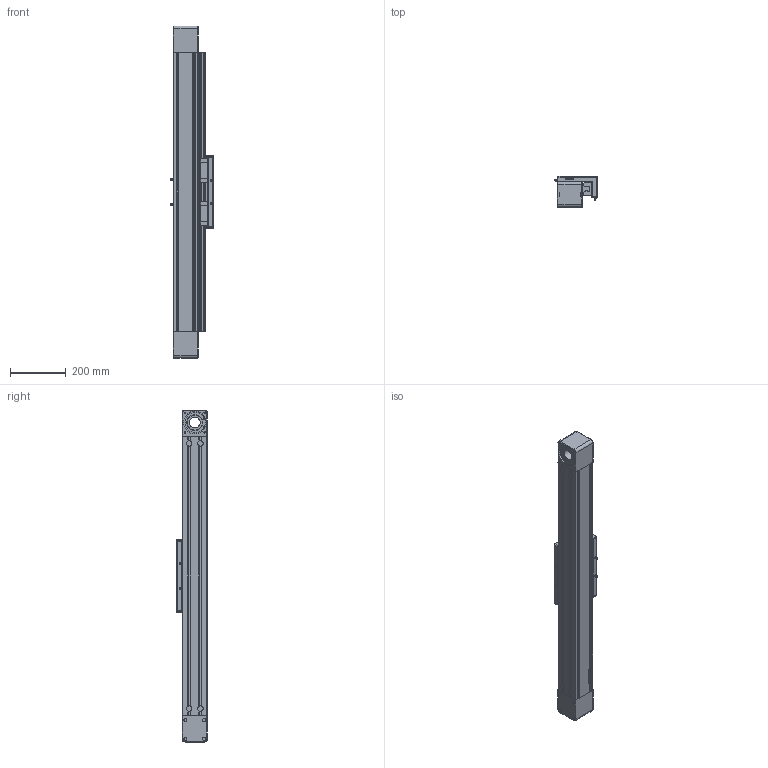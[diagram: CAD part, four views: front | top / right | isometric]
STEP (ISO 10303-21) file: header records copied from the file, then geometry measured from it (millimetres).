
FILE_DESCRIPTION(/* description */ ('00'),/* implementation_level */ '2;1');
FILE_NAME(/* name */ 'D:\EVOLVE\STUDIO_EVOLVE\LIBRERIA_MODELLI\UNITÀ_BELT_SERIE_D\UBD_SIMPLIFIED\UBD_090_M+_TS38_X0740_C1_SIMPLIFIED.stp',/* time_stamp */ '2022-04-13T17:03:57+02:00',/* author */ ('Daniel'),/* organization */ (''),/* preprocessor_version */ 'ST-DEVELOPER v18.1',/* originating_system */ 'Autodesk Inventor 2021',/* authorisation */ '');
FILE_SCHEMA (('AUTOMOTIVE_DESIGN { 1 0 10303 214 3 1 1 }'));
Length unit declared in the file: millimetre
Products named in the file (5): UBD_090_M+_TS38_X0740_C1_SIMPLIFIED; AS_UBD_090_+_L1000_SIMPLIFIED; TS_UBD_090_38_SIMPLIFIED; TS_UBD_090_F_SIMPLIFIED; CR_UBD_090_M+_SIMPLIFIED
Assembly tree (4 placements, depth 2):
  UBD_090_M+_TS38_X0740_C1_SIMPLIFIED
    AS_UBD_090_+_L1000_SIMPLIFIED
    TS_UBD_090_38_SIMPLIFIED
    TS_UBD_090_F_SIMPLIFIED
    CR_UBD_090_M+_SIMPLIFIED
Bounding box: 152.8 x 110 x 1190 mm (x, y, z)
Volume: 10051442.8 mm3; surface area: 1099504.9 mm2
Topology: 81 solids, 81 shells, 1113 faces, 2653 edges, 1742 vertices
Faces by surface type: plane 652, cylinder 351, cone 76, torus 16, sphere 12, bspline 6
Full cylindrical faces by diameter (mm): 0.112 x2, 3 x4, 4.917 x8, 6.647 x20, 8 x2, 11.2 x78, 13 x4, 20 x8, 38 x1, 55 x2, 80 x2, 83.5 x2
Entity records: 33650 total; most frequent: CARTESIAN_POINT 6807, DIRECTION 5445, ORIENTED_EDGE 5286, EDGE_CURVE 2643, AXIS2_PLACEMENT_3D 1902, VERTEX_POINT 1742, LINE 1641, VECTOR 1641
